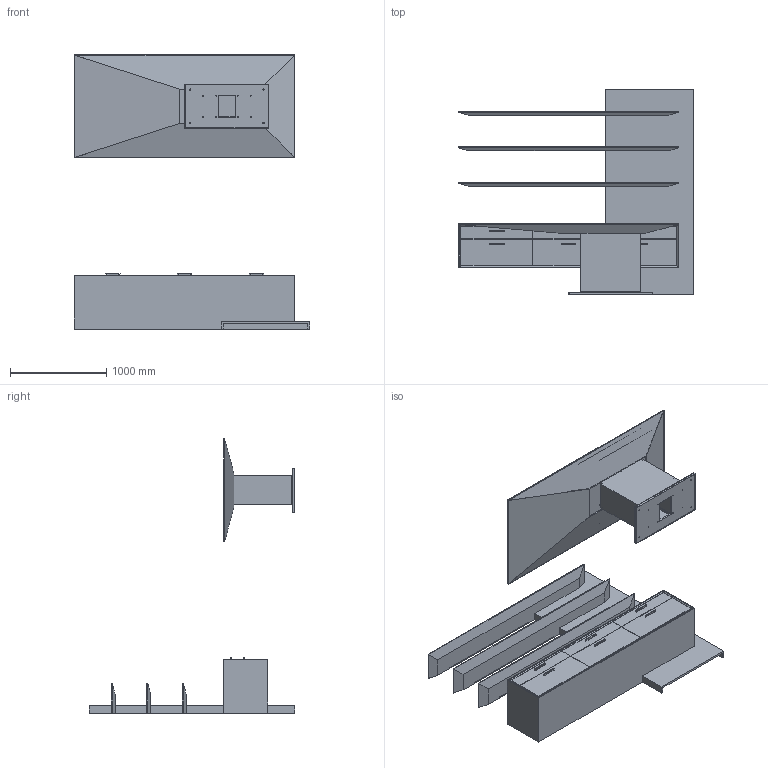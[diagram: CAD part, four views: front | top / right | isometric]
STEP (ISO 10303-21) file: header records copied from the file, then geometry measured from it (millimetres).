
FILE_DESCRIPTION(/* description */ ('','CAx-IF Rec.Pracs.---Representation and Presentation of Product Manufacturing Information (PMI)---4.0---2014-10-13'),/* implementation_level */ '2;1');
FILE_NAME(/* name */ 'AERO^PO6.stp',/* time_stamp */ '2024-12-05T16:36:23-05:00',/* author */ ('mbowman'),/* organization */ (''),/* preprocessor_version */ 'ST-DEVELOPER v19.2',/* originating_system */ 'Autodesk Inventor 2023',/* authorisation */ '');
FILE_SCHEMA (('AP242_MANAGED_MODEL_BASED_3D_ENGINEERING_MIM_LF { 1 0 10303 442 1 1 4 }'));
Length unit declared in the file: inch
Products named in the file (21): AERO^OFFICE 6_ABSTRACT OFFICE; AERO^OFFICE 6_DL2 DESK-SOLID ASSEMBLY; AERO^OFFICE 6_DL2 BASE-ASSEMBLY; AERO^OFFICE 6_DL2 BASE-FIXED SHROUD; AERO^OFFICE 6_DL2 BASE-LIFTING SHROUD; AERO^OFFICE 6_DL2 BASE-PLATE BASE PLATE; AERO^OFFICE 6_DL2 BASE-PLATE SHROUD; ASSEMBLY-DL2_562LBS^LINAK; ASSEMBLY-DL2_562LBS^LINAK_1; TOP TUBE-DL2_562LBS^LINAK; TOP PLATE-DL2_562LBS^LINAK; BOTTOM TUBE-DL2_562LBS^LINAK; BOTTOM TUBE FLANGE-DL2_562LBS^LINAK; BOTTOM PLATE-DL2_562LBS^LINAK; AERO^OFFICE 6_DL2 DESK-WORKSURFACE; AERO^OFFICE 6_WALL HUNG; AERO^OFFICE 6_WALL HUNG-CREDENZA; AERO^OFFICE 6_WALL HUNG-WOOD SHELF; AERO^OFFICE 6_WALL HUNG-WOOD WALL; SHEPPARD BRACKETS^1 INCH PLATE_7 INCH POST-46 INCH LENGTH; H-Q-PULLNEW
Assembly tree (34 placements, depth 5):
  AERO^OFFICE 6_ABSTRACT OFFICE
    AERO^OFFICE 6_DL2 DESK-SOLID ASSEMBLY
      AERO^OFFICE 6_DL2 BASE-ASSEMBLY
        AERO^OFFICE 6_DL2 BASE-FIXED SHROUD
        AERO^OFFICE 6_DL2 BASE-LIFTING SHROUD
        AERO^OFFICE 6_DL2 BASE-PLATE BASE PLATE
        AERO^OFFICE 6_DL2 BASE-PLATE SHROUD
        ASSEMBLY-DL2_562LBS^LINAK
          TOP TUBE-DL2_562LBS^LINAK
          TOP PLATE-DL2_562LBS^LINAK
          BOTTOM TUBE-DL2_562LBS^LINAK
          BOTTOM TUBE FLANGE-DL2_562LBS^LINAK
          BOTTOM PLATE-DL2_562LBS^LINAK
        ASSEMBLY-DL2_562LBS^LINAK_1
          TOP TUBE-DL2_562LBS^LINAK
          TOP PLATE-DL2_562LBS^LINAK
          BOTTOM TUBE-DL2_562LBS^LINAK
          BOTTOM TUBE FLANGE-DL2_562LBS^LINAK
          BOTTOM PLATE-DL2_562LBS^LINAK
      AERO^OFFICE 6_DL2 DESK-WORKSURFACE
    AERO^OFFICE 6_WALL HUNG
      AERO^OFFICE 6_WALL HUNG-CREDENZA
      AERO^OFFICE 6_WALL HUNG-WOOD SHELF  x3
      AERO^OFFICE 6_WALL HUNG-WOOD WALL
      SHEPPARD BRACKETS^1 INCH PLATE_7 INCH POST-46 INCH LENGTH  x3
      H-Q-PULLNEW  x6
Bounding box: 2438.4 x 2135.19 x 2844.8 mm (x, y, z)
Volume: 352738199.6 mm3; surface area: 39465367.8 mm2
Topology: 54 solids, 54 shells, 1995 faces, 5301 edges, 3440 vertices
Faces by surface type: plane 1182, cylinder 679, cone 66, bspline 44, torus 24
Full cylindrical faces by diameter (mm): 3.962 x12, 5 x4, 7.798 x8, 7.938 x6, 9.525 x12, 11.001 x16, 12.7 x28
Entity records: 38246 total; most frequent: CARTESIAN_POINT 7964, DIRECTION 5987, ORIENTED_EDGE 5282, EDGE_CURVE 2641, AXIS2_PLACEMENT_3D 1996, LINE 1995, VECTOR 1995, VERTEX_POINT 1722
